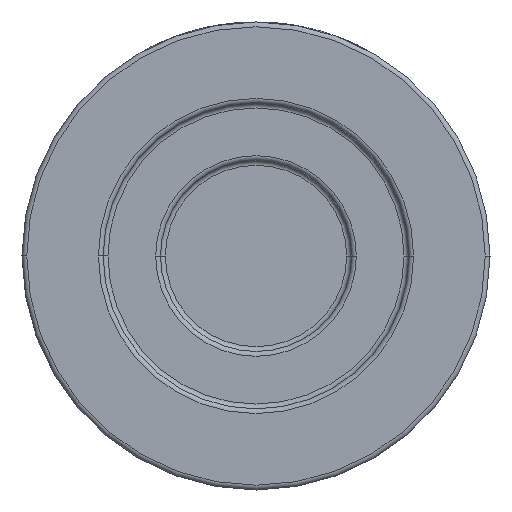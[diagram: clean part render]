
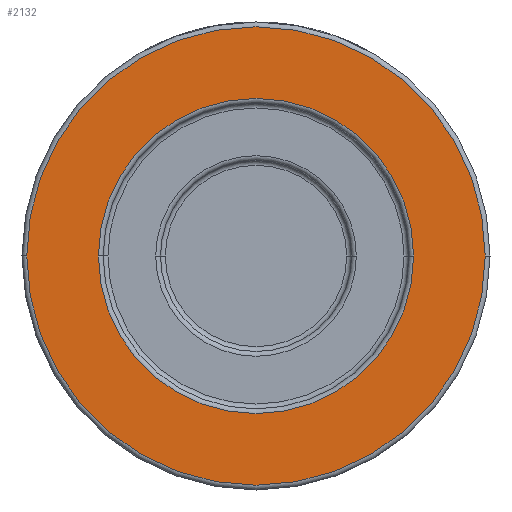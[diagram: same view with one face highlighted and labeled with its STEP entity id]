
A CAD part, front view. The second image highlights one B-rep face of the part: STEP entity #2132.
In plain terms, the highlighted planar face has unit normal (0, -1, 0).
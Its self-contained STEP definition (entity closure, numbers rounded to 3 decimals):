
#117 = EDGE_LOOP ( 'NONE', ( #3824, #4221 ) ) ;
#259 = CARTESIAN_POINT ( 'NONE',  ( 0., -41., 0. ) ) ;
#272 = PLANE ( 'NONE',  #376 ) ;
#376 = AXIS2_PLACEMENT_3D ( 'NONE', #1739, #3226, #2494 ) ;
#382 = AXIS2_PLACEMENT_3D ( 'NONE', #1234, #2330, #4128 ) ;
#443 = EDGE_CURVE ( 'NONE', #3623, #1824, #4561, .T. ) ;
#631 = FACE_OUTER_BOUND ( 'NONE', #962, .T. ) ;
#680 = DIRECTION ( 'NONE',  ( 0., 1., 0. ) ) ;
#799 = EDGE_CURVE ( 'NONE', #996, #3426, #1889, .T. ) ;
#962 = EDGE_LOOP ( 'NONE', ( #3446, #4348 ) ) ;
#984 = CARTESIAN_POINT ( 'NONE',  ( -33., -41., 0. ) ) ;
#996 = VERTEX_POINT ( 'NONE', #2532 ) ;
#1015 = DIRECTION ( 'NONE',  ( 1., 0., 0. ) ) ;
#1234 = CARTESIAN_POINT ( 'NONE',  ( 0., -41., 0. ) ) ;
#1606 = AXIS2_PLACEMENT_3D ( 'NONE', #1789, #680, #2149 ) ;
#1680 = CIRCLE ( 'NONE', #2933, 48. ) ;
#1739 = CARTESIAN_POINT ( 'NONE',  ( 49., -41., 0. ) ) ;
#1789 = CARTESIAN_POINT ( 'NONE',  ( 0., -41., 0. ) ) ;
#1824 = VERTEX_POINT ( 'NONE', #2641 ) ;
#1889 = CIRCLE ( 'NONE', #2733, 33. ) ;
#2051 = EDGE_CURVE ( 'NONE', #1824, #3623, #1680, .T. ) ;
#2132 = ADVANCED_FACE ( 'NONE', ( #2469, #631 ), #272, .T. ) ;
#2149 = DIRECTION ( 'NONE',  ( 1., 0., 0. ) ) ;
#2154 = EDGE_CURVE ( 'NONE', #3426, #996, #4477, .T. ) ;
#2330 = DIRECTION ( 'NONE',  ( 0., -1., 0. ) ) ;
#2469 = FACE_BOUND ( 'NONE', #117, .T. ) ;
#2494 = DIRECTION ( 'NONE',  ( 1., 0., 0. ) ) ;
#2532 = CARTESIAN_POINT ( 'NONE',  ( 33., -41., 0. ) ) ;
#2641 = CARTESIAN_POINT ( 'NONE',  ( 48., -41., 0. ) ) ;
#2733 = AXIS2_PLACEMENT_3D ( 'NONE', #259, #2875, #3916 ) ;
#2875 = DIRECTION ( 'NONE',  ( 0., 1., 0. ) ) ;
#2933 = AXIS2_PLACEMENT_3D ( 'NONE', #3200, #3145, #1015 ) ;
#3145 = DIRECTION ( 'NONE',  ( 0., -1., 0. ) ) ;
#3200 = CARTESIAN_POINT ( 'NONE',  ( 0., -41., 0. ) ) ;
#3226 = DIRECTION ( 'NONE',  ( 0., -1., 0. ) ) ;
#3426 = VERTEX_POINT ( 'NONE', #984 ) ;
#3446 = ORIENTED_EDGE ( 'NONE', *, *, #2051, .T. ) ;
#3623 = VERTEX_POINT ( 'NONE', #4650 ) ;
#3824 = ORIENTED_EDGE ( 'NONE', *, *, #799, .T. ) ;
#3916 = DIRECTION ( 'NONE',  ( 1., 0., 0. ) ) ;
#4128 = DIRECTION ( 'NONE',  ( 1., 0., 0. ) ) ;
#4221 = ORIENTED_EDGE ( 'NONE', *, *, #2154, .T. ) ;
#4348 = ORIENTED_EDGE ( 'NONE', *, *, #443, .T. ) ;
#4477 = CIRCLE ( 'NONE', #1606, 33. ) ;
#4561 = CIRCLE ( 'NONE', #382, 48. ) ;
#4650 = CARTESIAN_POINT ( 'NONE',  ( -48., -41., 0. ) ) ;
